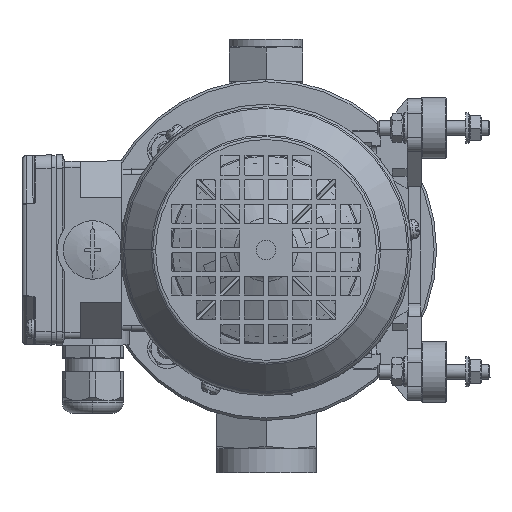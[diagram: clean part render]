
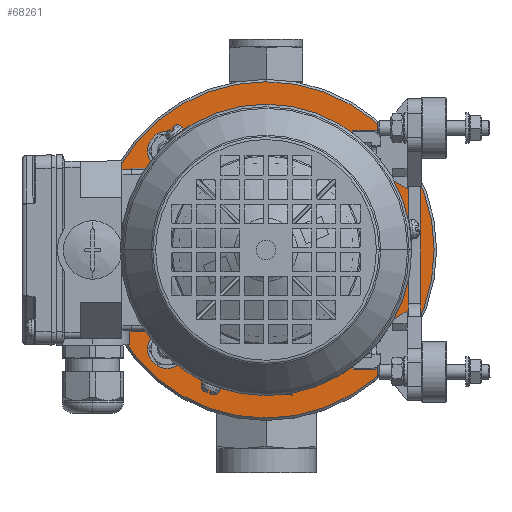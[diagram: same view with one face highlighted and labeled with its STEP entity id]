
A CAD part, front view. The second image highlights one B-rep face of the part: STEP entity #68261.
In plain terms, the highlighted planar face has unit normal (0, -1, 0).
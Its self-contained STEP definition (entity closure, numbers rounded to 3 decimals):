
#1110=CARTESIAN_POINT('',(-0.025,150.209,
0.));
#1111=DIRECTION('',(0.,1.,0.));
#1112=DIRECTION('',(0.,0.,1.));
#1113=AXIS2_PLACEMENT_3D('',#1110,#1111,#1112);
#1118=CARTESIAN_POINT('',(-0.025,150.209,
0.));
#1119=DIRECTION('',(0.,1.,0.));
#1120=DIRECTION('',(1.,0.,0.));
#1121=AXIS2_PLACEMENT_3D('',#1118,#1119,#1120);
#1126=CARTESIAN_POINT('',(-0.025,150.209,
0.));
#1127=DIRECTION('',(0.,1.,0.));
#1128=DIRECTION('',(0.,0.,-1.));
#1129=AXIS2_PLACEMENT_3D('',#1126,#1127,#1128);
#1134=CARTESIAN_POINT('',(-0.025,150.209,
0.));
#1135=DIRECTION('',(0.,1.,0.));
#1136=DIRECTION('',(-1.,0.,0.));
#1137=AXIS2_PLACEMENT_3D('',#1134,#1135,#1136);
#1142=CARTESIAN_POINT('',(-0.025,150.209,
0.));
#1143=DIRECTION('',(0.,-1.,0.));
#1144=DIRECTION('',(-1.,0.,0.));
#1145=AXIS2_PLACEMENT_3D('',#1142,#1143,#1144);
#1150=CARTESIAN_POINT('',(-0.025,150.209,
0.));
#1151=DIRECTION('',(0.,-1.,0.));
#1152=DIRECTION('',(0.,0.,-1.));
#1153=AXIS2_PLACEMENT_3D('',#1150,#1151,#1152);
#1158=CARTESIAN_POINT('',(-0.025,150.209,
0.));
#1159=DIRECTION('',(0.,-1.,0.));
#1160=DIRECTION('',(1.,0.,0.));
#1161=AXIS2_PLACEMENT_3D('',#1158,#1159,#1160);
#1166=CARTESIAN_POINT('',(-0.025,150.209,
0.));
#1167=DIRECTION('',(0.,-1.,0.));
#1168=DIRECTION('',(0.,0.,1.));
#1169=AXIS2_PLACEMENT_3D('',#1166,#1167,#1168);
#1174=CARTESIAN_POINT('',(40.659,150.209,-40.659));
#1175=DIRECTION('',(0.,-1.,0.));
#1176=DIRECTION('',(1.,0.,0.));
#1177=AXIS2_PLACEMENT_3D('',#1174,#1175,#1176);
#1182=CARTESIAN_POINT('',(40.659,150.209,-40.659));
#1183=DIRECTION('',(0.,-1.,0.));
#1184=DIRECTION('',(-1.,0.,0.));
#1185=AXIS2_PLACEMENT_3D('',#1182,#1183,#1184);
#1190=CARTESIAN_POINT('',(-40.659,150.209,
-40.659));
#1191=DIRECTION('',(0.,-1.,0.));
#1192=DIRECTION('',(1.,0.,0.));
#1193=AXIS2_PLACEMENT_3D('',#1190,#1191,#1192);
#1198=CARTESIAN_POINT('',(-40.659,150.209,
-40.659));
#1199=DIRECTION('',(0.,-1.,0.));
#1200=DIRECTION('',(-1.,0.,0.));
#1201=AXIS2_PLACEMENT_3D('',#1198,#1199,#1200);
#1206=CARTESIAN_POINT('',(-40.659,150.209,40.659));
#1207=DIRECTION('',(0.,-1.,0.));
#1208=DIRECTION('',(1.,0.,0.));
#1209=AXIS2_PLACEMENT_3D('',#1206,#1207,#1208);
#1214=CARTESIAN_POINT('',(-40.659,150.209,40.659));
#1215=DIRECTION('',(0.,-1.,0.));
#1216=DIRECTION('',(-1.,0.,0.));
#1217=AXIS2_PLACEMENT_3D('',#1214,#1215,#1216);
#1222=CARTESIAN_POINT('',(40.659,150.209,40.659));
#1223=DIRECTION('',(0.,-1.,0.));
#1224=DIRECTION('',(1.,0.,0.));
#1225=AXIS2_PLACEMENT_3D('',#1222,#1223,#1224);
#1230=CARTESIAN_POINT('',(40.659,150.209,40.659));
#1231=DIRECTION('',(0.,-1.,0.));
#1232=DIRECTION('',(-1.,0.,0.));
#1233=AXIS2_PLACEMENT_3D('',#1230,#1231,#1232);
#66101=CARTESIAN_POINT('',(-0.04,150.209,
48.5));
#66102=VERTEX_POINT('',#66101);
#66103=CARTESIAN_POINT('',(48.475,150.209,
0.015));
#66104=VERTEX_POINT('',#66103);
#66105=CARTESIAN_POINT('',(-0.01,150.209,
-48.5));
#66106=VERTEX_POINT('',#66105);
#66107=CARTESIAN_POINT('',(-48.525,150.209,
-0.015));
#66108=VERTEX_POINT('',#66107);
#66109=CARTESIAN_POINT('',(68.975,150.209,
0.021));
#66110=CARTESIAN_POINT('',(-0.004,150.209,
-69.));
#66111=VERTEX_POINT('',#66109);
#66112=VERTEX_POINT('',#66110);
#66113=CARTESIAN_POINT('',(-0.046,150.209,
69.));
#66114=VERTEX_POINT('',#66113);
#66115=CARTESIAN_POINT('',(-69.025,150.209,
-0.021));
#66116=VERTEX_POINT('',#66115);
#66117=CARTESIAN_POINT('',(48.659,150.209,
-40.659));
#66118=CARTESIAN_POINT('',(32.659,150.209,
-40.659));
#66119=VERTEX_POINT('',#66117);
#66120=VERTEX_POINT('',#66118);
#66121=CARTESIAN_POINT('',(-32.659,150.209,
-40.659));
#66122=CARTESIAN_POINT('',(-48.659,150.209,
-40.659));
#66123=VERTEX_POINT('',#66121);
#66124=VERTEX_POINT('',#66122);
#66125=CARTESIAN_POINT('',(-32.659,150.209,
40.659));
#66126=CARTESIAN_POINT('',(-48.659,150.209,
40.659));
#66127=VERTEX_POINT('',#66125);
#66128=VERTEX_POINT('',#66126);
#66129=CARTESIAN_POINT('',(48.659,150.209,40.659));
#66130=CARTESIAN_POINT('',(32.659,150.209,40.659));
#66131=VERTEX_POINT('',#66129);
#66132=VERTEX_POINT('',#66130);
#68216=CARTESIAN_POINT('',(-0.025,150.209,
0.));
#68217=DIRECTION('',(0.,-1.,0.));
#68218=DIRECTION('',(0.,0.,1.));
#68219=AXIS2_PLACEMENT_3D('',#68216,#68217,#68218);
#68220=PLANE('',#68219);
#68221=ORIENTED_EDGE('',*,*,#68204,.T.);
#68222=ORIENTED_EDGE('',*,*,#68202,.T.);
#68223=ORIENTED_EDGE('',*,*,#68181,.T.);
#68224=ORIENTED_EDGE('',*,*,#68179,.T.);
#68225=EDGE_LOOP('',(#68221,#68222,#68223,#68224));
#68226=FACE_OUTER_BOUND('',#68225,.F.);
#68228=ORIENTED_EDGE('',*,*,#68227,.T.);
#68230=ORIENTED_EDGE('',*,*,#68229,.T.);
#68232=ORIENTED_EDGE('',*,*,#68231,.T.);
#68234=ORIENTED_EDGE('',*,*,#68233,.T.);
#68235=EDGE_LOOP('',(#68228,#68230,#68232,#68234));
#68236=FACE_BOUND('',#68235,.F.);
#68238=ORIENTED_EDGE('',*,*,#68237,.T.);
#68240=ORIENTED_EDGE('',*,*,#68239,.T.);
#68241=EDGE_LOOP('',(#68238,#68240));
#68242=FACE_BOUND('',#68241,.F.);
#68244=ORIENTED_EDGE('',*,*,#68243,.T.);
#68246=ORIENTED_EDGE('',*,*,#68245,.T.);
#68247=EDGE_LOOP('',(#68244,#68246));
#68248=FACE_BOUND('',#68247,.F.);
#68250=ORIENTED_EDGE('',*,*,#68249,.T.);
#68252=ORIENTED_EDGE('',*,*,#68251,.T.);
#68253=EDGE_LOOP('',(#68250,#68252));
#68254=FACE_BOUND('',#68253,.F.);
#68256=ORIENTED_EDGE('',*,*,#68255,.T.);
#68258=ORIENTED_EDGE('',*,*,#68257,.T.);
#68259=EDGE_LOOP('',(#68256,#68258));
#68260=FACE_BOUND('',#68259,.F.);
#1114=CIRCLE('',#1113,69.);
#1122=CIRCLE('',#1121,69.);
#1130=CIRCLE('',#1129,69.);
#1138=CIRCLE('',#1137,69.);
#1146=CIRCLE('',#1145,48.5);
#1154=CIRCLE('',#1153,48.5);
#1162=CIRCLE('',#1161,48.5);
#1170=CIRCLE('',#1169,48.5);
#1178=CIRCLE('',#1177,8.);
#1186=CIRCLE('',#1185,8.);
#1194=CIRCLE('',#1193,8.);
#1202=CIRCLE('',#1201,8.);
#1210=CIRCLE('',#1209,8.);
#1218=CIRCLE('',#1217,8.);
#1226=CIRCLE('',#1225,8.);
#1234=CIRCLE('',#1233,8.);
#68179=EDGE_CURVE('',#66116,#66114,#1138,.T.);
#68181=EDGE_CURVE('',#66112,#66116,#1130,.T.);
#68202=EDGE_CURVE('',#66111,#66112,#1122,.T.);
#68204=EDGE_CURVE('',#66114,#66111,#1114,.T.);
#68227=EDGE_CURVE('',#66108,#66106,#1146,.T.);
#68229=EDGE_CURVE('',#66106,#66104,#1154,.T.);
#68231=EDGE_CURVE('',#66104,#66102,#1162,.T.);
#68233=EDGE_CURVE('',#66102,#66108,#1170,.T.);
#68237=EDGE_CURVE('',#66119,#66120,#1178,.T.);
#68239=EDGE_CURVE('',#66120,#66119,#1186,.T.);
#68243=EDGE_CURVE('',#66123,#66124,#1194,.T.);
#68245=EDGE_CURVE('',#66124,#66123,#1202,.T.);
#68249=EDGE_CURVE('',#66127,#66128,#1210,.T.);
#68251=EDGE_CURVE('',#66128,#66127,#1218,.T.);
#68255=EDGE_CURVE('',#66131,#66132,#1226,.T.);
#68257=EDGE_CURVE('',#66132,#66131,#1234,.T.);
#68261=ADVANCED_FACE('',(#68226,#68236,#68242,#68248,#68254,#68260),#68220,.T.);
